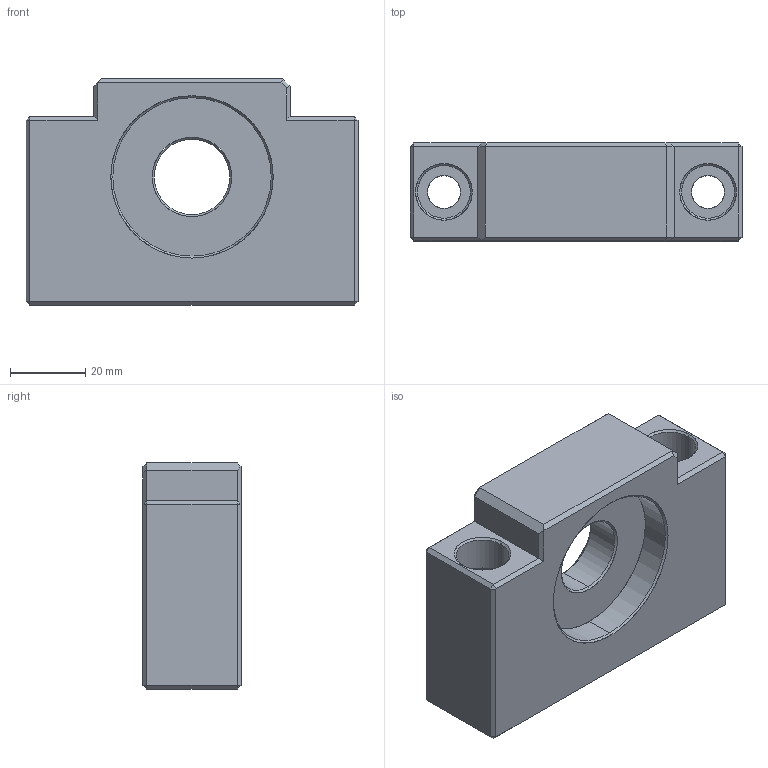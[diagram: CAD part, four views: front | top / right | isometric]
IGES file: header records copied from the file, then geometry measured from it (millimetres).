
Start section: SolidWorks IGES file using analytic representation for surfaces
Global section: file name: E:\同创达图纸\产品示意图\3D选型图\支撑座\BF系列\BF20.IGS; native system: SolidWorks 2012; preprocessor: SolidWorks 2012; author: gao; date: 130702.152412; units: millimetre
Bounding box: 88 x 26 x 60 mm (x, y, z)
Surface area: 21833.3 mm2 (no closed solid volume)
Topology: 0 solids, 0 shells, 77 faces, 872 edges, 872 vertices
Faces by surface type: bspline 47, revolution 30
